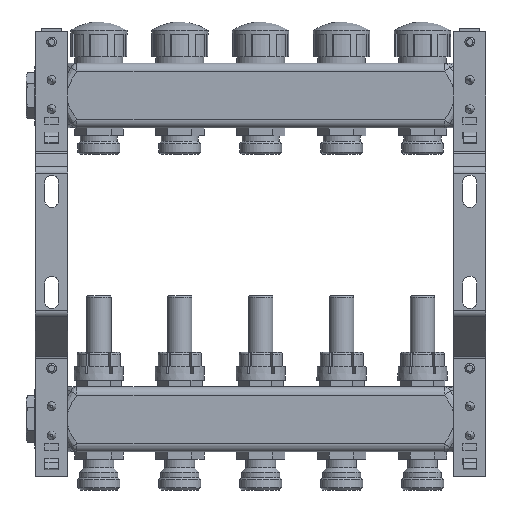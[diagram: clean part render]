
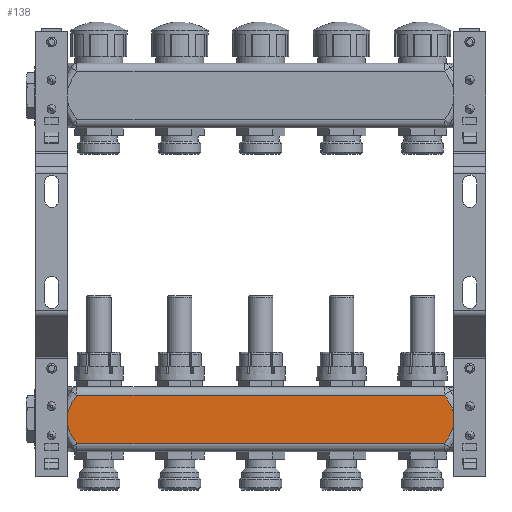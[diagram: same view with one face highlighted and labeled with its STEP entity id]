
A CAD part, front view. The second image highlights one B-rep face of the part: STEP entity #138.
In plain terms, the highlighted planar face has unit normal (0, -1, 0).
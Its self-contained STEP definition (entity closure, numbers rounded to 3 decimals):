
#138=ADVANCED_FACE('',(#2608),#2610,.T.);
#2608=FACE_BOUND('',#2609,.T.);
#2609=EDGE_LOOP('',(#13732,#13733,#13734,#13735));
#2610=PLANE('',#2611);
#2611=AXIS2_PLACEMENT_3D('',#2612,#2613,#2614);
#2612=CARTESIAN_POINT('',(1.7,46.5,-219.65));
#2613=DIRECTION('',(0.,-1.,0.));
#2614=DIRECTION('',(0.,0.,-1.));
#13732=ORIENTED_EDGE('',*,*,#20055,.T.);
#13733=ORIENTED_EDGE('',*,*,#20056,.F.);
#13734=ORIENTED_EDGE('',*,*,#19776,.T.);
#13735=ORIENTED_EDGE('',*,*,#20057,.T.);
#19776=EDGE_CURVE('',#23172,#23170,#23173,.T.);
#20055=EDGE_CURVE('',#23641,#23642,#23643,.T.);
#20056=EDGE_CURVE('',#23172,#23642,#23644,.T.);
#20057=EDGE_CURVE('',#23170,#23641,#23645,.T.);
#23170=VERTEX_POINT('',#30635);
#23172=VERTEX_POINT('',#30640);
#23173=B_SPLINE_CURVE_WITH_KNOTS('',3,
(#30641,#30642,#30643,#30644,#30645,#30646,#30647,#30648,#30649,#30650,#30651,#30652,
#30653,#30654,#30655,#30656,#30657,#30658,#30659,#30660,#30661,#30662,#30663,#30664),
.UNSPECIFIED.,.F.,.F.,
(4,1,1,1,1,1,1,1,1,1,1,1,1,1,1,1,1,1,1,1,1,4),
(0.,0.066,0.123,0.171,0.221,0.271,
0.322,0.369,0.413,0.45,0.485,
0.521,0.557,0.597,0.64,0.687,
0.738,0.789,0.841,0.891,0.945,
1.),
.UNSPECIFIED.);
#23641=VERTEX_POINT('',#33057);
#23642=VERTEX_POINT('',#33058);
#23643=B_SPLINE_CURVE_WITH_KNOTS('',3,
(#33059,#33060,#33061,#33062,#33063,#33064,#33065,#33066,#33067,#33068,#33069,#33070,
#33071,#33072,#33073,#33074,#33075,#33076,#33077,#33078,#33079,#33080,#33081,#33082),
.UNSPECIFIED.,.F.,.F.,
(4,1,1,1,1,1,1,1,1,1,1,1,1,1,1,1,1,1,1,1,1,4),
(0.,0.066,0.123,0.171,0.221,0.271,
0.322,0.369,0.413,0.45,0.485,
0.521,0.557,0.597,0.64,0.687,
0.738,0.789,0.841,0.891,0.945,
1.),
.UNSPECIFIED.);
#23644=LINE('',#33083,#33084);
#23645=LINE('',#33086,#33087);
#30635=CARTESIAN_POINT('',(25.634,46.5,-254.65));
#30640=CARTESIAN_POINT('',(25.634,46.5,-224.65));
#30641=CARTESIAN_POINT('',(25.634,46.5,-224.65));
#30642=CARTESIAN_POINT('',(25.196,46.5,-225.269));
#30643=CARTESIAN_POINT('',(24.401,46.5,-226.43));
#30644=CARTESIAN_POINT('',(23.362,46.5,-228.064));
#30645=CARTESIAN_POINT('',(22.485,46.5,-229.562));
#30646=CARTESIAN_POINT('',(21.717,46.5,-231.008));
#30647=CARTESIAN_POINT('',(21.012,46.5,-232.516));
#30648=CARTESIAN_POINT('',(20.421,46.5,-234.022));
#30649=CARTESIAN_POINT('',(19.968,46.5,-235.487));
#30650=CARTESIAN_POINT('',(19.669,46.5,-236.817));
#30651=CARTESIAN_POINT('',(19.494,46.5,-238.033));
#30652=CARTESIAN_POINT('',(19.414,46.5,-239.176));
#30653=CARTESIAN_POINT('',(19.421,46.5,-240.315));
#30654=CARTESIAN_POINT('',(19.518,46.5,-241.495));
#30655=CARTESIAN_POINT('',(19.72,46.5,-242.746));
#30656=CARTESIAN_POINT('',(20.047,46.5,-244.096));
#30657=CARTESIAN_POINT('',(20.52,46.5,-245.553));
#30658=CARTESIAN_POINT('',(21.134,46.5,-247.064));
#30659=CARTESIAN_POINT('',(21.87,46.5,-248.596));
#30660=CARTESIAN_POINT('',(22.685,46.5,-250.094));
#30661=CARTESIAN_POINT('',(23.586,46.5,-251.598));
#30662=CARTESIAN_POINT('',(24.565,46.5,-253.112));
#30663=CARTESIAN_POINT('',(25.27,46.5,-254.135));
#30664=CARTESIAN_POINT('',(25.634,46.5,-254.65));
#33057=CARTESIAN_POINT('',(252.766,46.5,-254.65));
#33058=CARTESIAN_POINT('',(252.766,46.5,-224.65));
#33059=CARTESIAN_POINT('',(252.766,46.5,-254.65));
#33060=CARTESIAN_POINT('',(253.204,46.5,-254.031));
#33061=CARTESIAN_POINT('',(253.999,46.5,-252.87));
#33062=CARTESIAN_POINT('',(255.038,46.5,-251.236));
#33063=CARTESIAN_POINT('',(255.915,46.5,-249.738));
#33064=CARTESIAN_POINT('',(256.683,46.5,-248.292));
#33065=CARTESIAN_POINT('',(257.388,46.5,-246.784));
#33066=CARTESIAN_POINT('',(257.979,46.5,-245.278));
#33067=CARTESIAN_POINT('',(258.432,46.5,-243.813));
#33068=CARTESIAN_POINT('',(258.731,46.5,-242.483));
#33069=CARTESIAN_POINT('',(258.906,46.5,-241.267));
#33070=CARTESIAN_POINT('',(258.986,46.5,-240.124));
#33071=CARTESIAN_POINT('',(258.979,46.5,-238.985));
#33072=CARTESIAN_POINT('',(258.882,46.5,-237.805));
#33073=CARTESIAN_POINT('',(258.68,46.5,-236.554));
#33074=CARTESIAN_POINT('',(258.353,46.5,-235.204));
#33075=CARTESIAN_POINT('',(257.88,46.5,-233.747));
#33076=CARTESIAN_POINT('',(257.266,46.5,-232.236));
#33077=CARTESIAN_POINT('',(256.53,46.5,-230.704));
#33078=CARTESIAN_POINT('',(255.715,46.5,-229.206));
#33079=CARTESIAN_POINT('',(254.814,46.5,-227.702));
#33080=CARTESIAN_POINT('',(253.835,46.5,-226.188));
#33081=CARTESIAN_POINT('',(253.13,46.5,-225.165));
#33082=CARTESIAN_POINT('',(252.766,46.5,-224.65));
#33083=CARTESIAN_POINT('',(25.634,46.5,-224.65));
#33084=VECTOR('',#33085,1.);
#33085=DIRECTION('',(1.,0.,0.));
#33086=CARTESIAN_POINT('',(25.634,46.5,-254.65));
#33087=VECTOR('',#33088,1.);
#33088=DIRECTION('',(1.,0.,0.));
